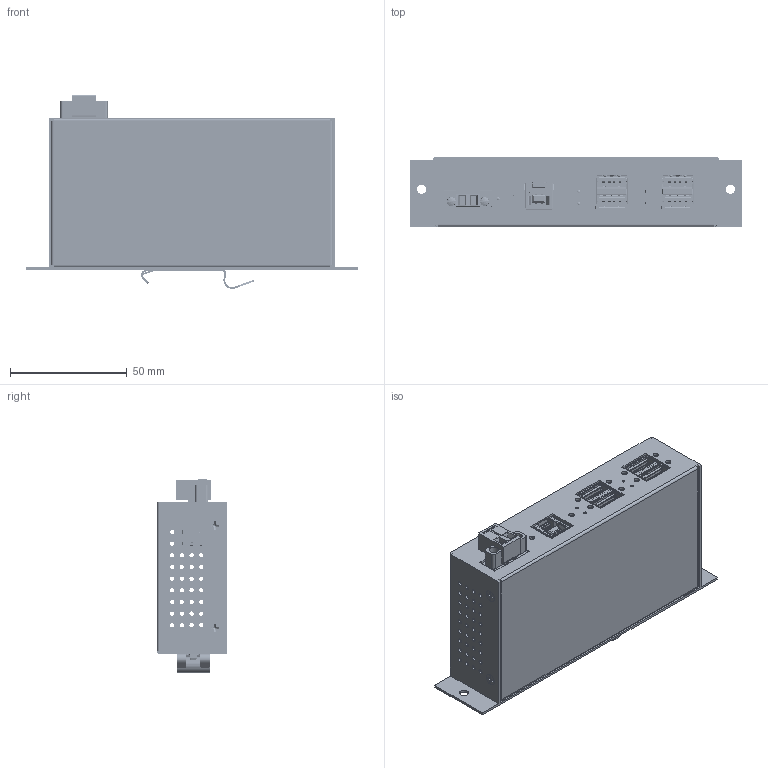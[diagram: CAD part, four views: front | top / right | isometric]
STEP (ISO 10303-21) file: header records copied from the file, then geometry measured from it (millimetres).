
FILE_DESCRIPTION(/* description */ (''),/* implementation_level */ '2;1');
FILE_NAME(/* name */ 'C:/Users/Leo/Desktop/CG-4PU3MGD/CG-4PU3MGD Model3d LPV1.step',/* time_stamp */ '2021-04-26T16:51:14-04:00',/* author */ (''),/* organization */ (''),/* preprocessor_version */ 'ST-DEVELOPER v18.1',/* originating_system */ 'Autodesk Translation Framework v10.6.0.1341',/* authorisation */ '');
FILE_SCHEMA (('AUTOMOTIVE_DESIGN { 1 0 10303 214 3 1 1 }'));
Products named in the file (7): CG-4PU3MGD; DINRCLP3X v12; DINRCLP3X; M3X0.5 China 120ang METRIC 18-8 SS FLAT HEAD PHIL MACHINE SCREW v2 (1
); Screws TERMINAL BLOCK PLUGGABLE PLUG v4; 91793A067; Component52
Assembly tree (8 placements, depth 3):
  CG-4PU3MGD
    DINRCLP3X v12
      DINRCLP3X
      M3X0.5 China 120ang METRIC 18-8 SS FLAT HEAD PHIL MACHINE SCREW v2 (1
)  x2
    Screws TERMINAL BLOCK PLUGGABLE PLUG v4
      91793A067  x2
    Component52
Bounding box: 142.38 x 30 x 83.11 mm (x, y, z)
Volume: 50091.1 mm3; surface area: 89414.5 mm2
Topology: 7 solids, 117 shells, 6262 faces, 17654 edges, 11443 vertices
Faces by surface type: plane 4485, cylinder 1527, bspline 134, cone 104, sphere 12
Full cylindrical faces by diameter (mm): 0.434 x1, 1.2 x1, 1.25 x4, 1.399 x44, 1.6 x2, 1.8 x2, 1.85 x72, 1.854 x42, 2 x2, 2.35 x23, 2.5 x2, 2.529 x4, 2.8 x1, 2.89 x1, 3 x30, 3.86 x2, 3.9 x2, 4 x2, 4.2 x4
Entity records: 214266 total; most frequent: CARTESIAN_POINT 53100, ORIENTED_EDGE 34704, DIRECTION 31751, EDGE_CURVE 17352, LINE 13569, VECTOR 13569, VERTEX_POINT 11255, AXIS2_PLACEMENT_3D 9091
